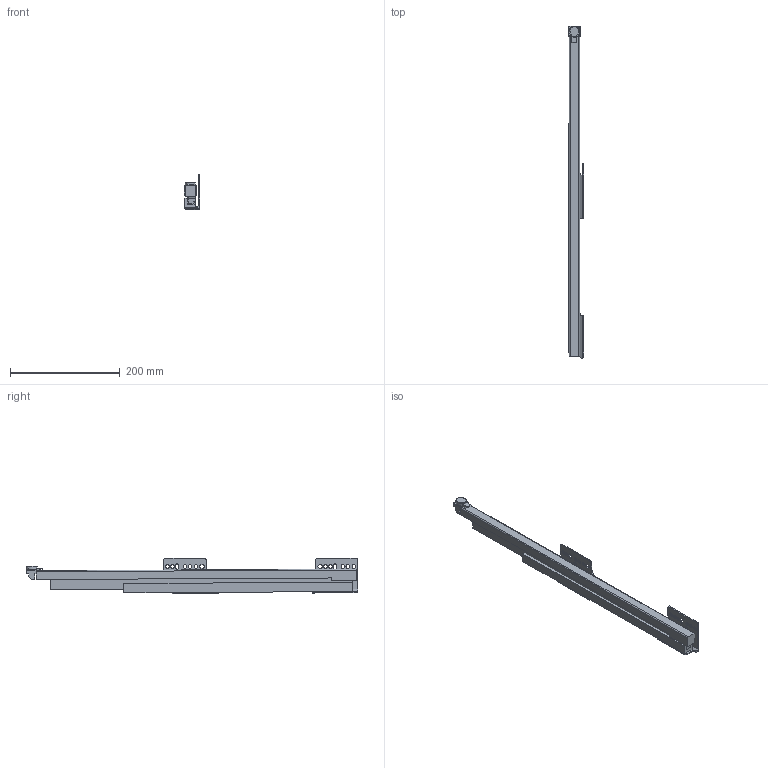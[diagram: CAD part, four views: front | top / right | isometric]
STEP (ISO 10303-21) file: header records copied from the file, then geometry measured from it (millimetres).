
FILE_DESCRIPTION (( 'STEP AP214' ), '1' );
FILE_NAME ('_IMOS_NOVA-Pro_KS_TL_EB29mm_RE_NL600.step', '2010-07-15T11:35:02', ( 'grass' ), ( '' ), 'SwSTEP 2.0', 'SolidWorks 2009', '' );
FILE_SCHEMA (( 'AUTOMOTIVE_DESIGN' ));
Length unit declared in the file: millimetre
Products named in the file (1): _IMOS_NOVA-Pro_KS_TL_EB29mm_RE_NL600
Bounding box: 27.95 x 605.55 x 64.46 mm (x, y, z)
Volume: 424443.3 mm3; surface area: 176899.3 mm2
Topology: 8 solids, 8 shells, 185 faces, 496 edges, 328 vertices
Faces by surface type: plane 116, cylinder 64, torus 5
Entity records: 5964 total; most frequent: CARTESIAN_POINT 1097, ORIENTED_EDGE 992, DIRECTION 972, EDGE_CURVE 496, LINE 350, VECTOR 350, VERTEX_POINT 328, AXIS2_PLACEMENT_3D 311
